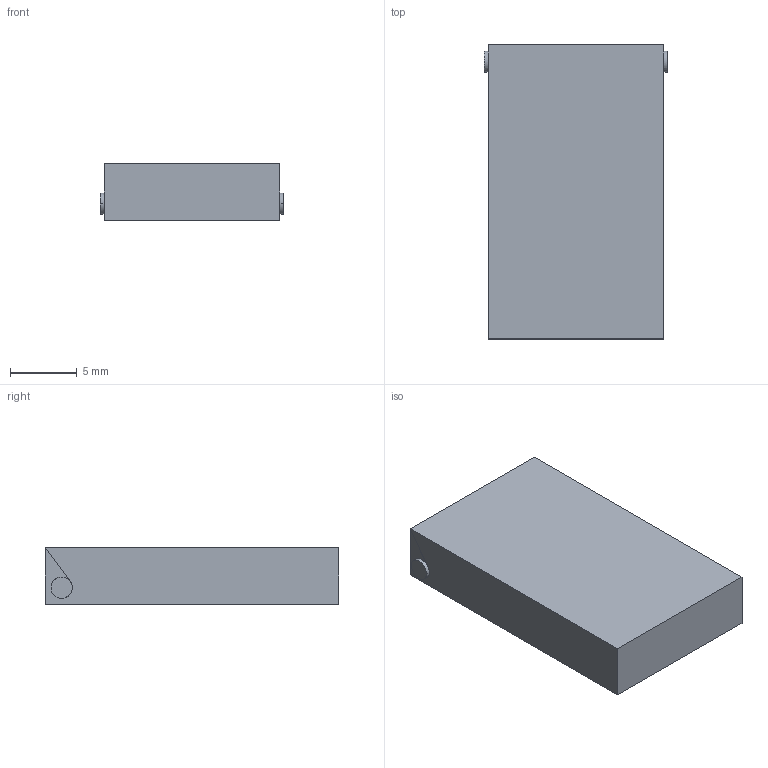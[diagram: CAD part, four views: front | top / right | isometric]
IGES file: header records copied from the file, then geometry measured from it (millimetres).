
Start section:  PTC IGES file: j5d-cov-cn8.igs
Global section: file name: j5d-cov-cn8.igs; native system: Creo Parametric by PTC Inc.; preprocessor: 2020184; author: VX25986; organization: Unknown; date: 20210323.200202; units: millimetre
Bounding box: 13.8 x 22.1 x 4.25 mm (x, y, z)
Surface area: 1047.7 mm2 (no closed solid volume)
Topology: 0 solids, 0 shells, 17 faces, 72 edges, 72 vertices
Faces by surface type: bspline 17
